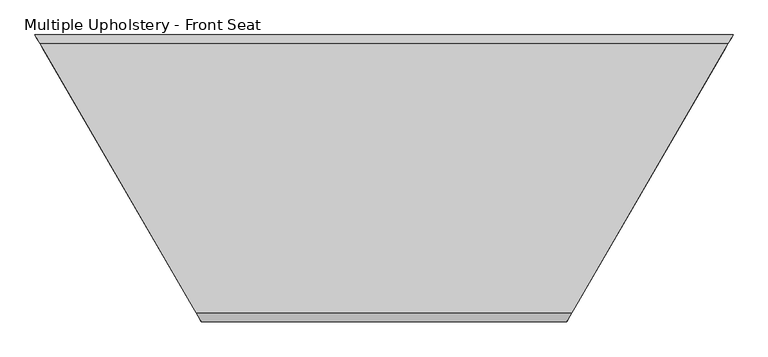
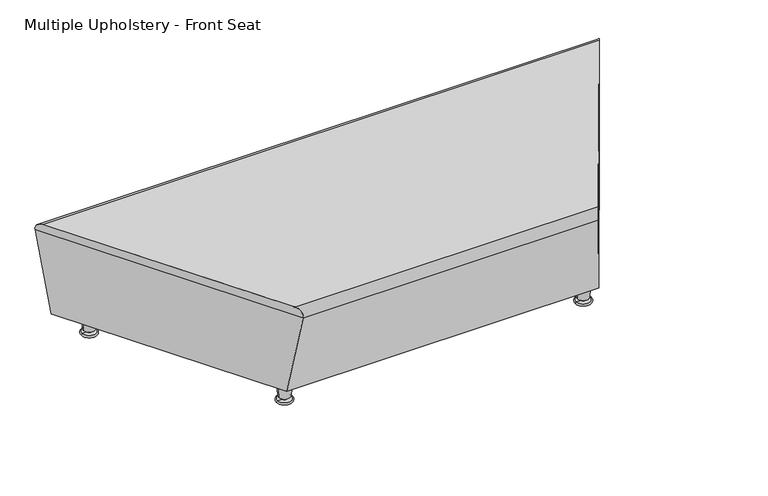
"""IFC4 building model written with IfcOpenShell, lengths in millimetres: furniture geometry, Steelcase - Media Scape - Lounge - Backless : Multiple Upholstery - Front Seat."""

from ifc_helpers import new_model, si_unit, point, frame, origin, place, context, project, spatial, polyline, circle_curve, ellipse_curve, trimmed, source, transform, mapped, element, save
from ifc_brep_helpers import plane_surface, cylinder_surface, revolved_surface, advanced_brep


def multiple_upholstery_front_seat_c7e5a67b(model_context):
    return source(origin(), model_context, "Body", "AdvancedBrep", [
        advanced_brep(
        [(-24.8095014, 40.4380475, 405.1098036), (-16.4902108, 26.1079457, 405.1098036), (1074.4179162, 26.1079457, 405.1098036), (1082.7372067, 40.4380475, 405.1098036), (1519.8054305, 793.2945697, 405.1098036), (1528.124721, 807.6246715, 405.1098036), (-470.1970157, 807.6246715, 405.1098036), (-461.8777252, 793.2945697, 405.1098036), (1543.1209112, 833.4558324, 374.5705234), (1059.421726, 0.2767848, 374.5705234), (-1.4940206, 0.2767848, 374.5705234), (-485.1932059, 833.4558324, 374.5705234)],
        [
            (0, 1),
            (1, 2),
            (2, 3),
            (3, 4),
            (4, 5),
            (5, 6),
            (6, 7),
            (7, 0),
            (8, 9),
            (9, 10),
            (10, 11),
            (11, 8),
            (6, 11, ellipse_curve(frame((-470.1970157, 807.6246715, 378.9157267), z_axis=(-0.8648259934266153, -0.502071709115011, 0.0), x_axis=(-0.5020717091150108, 0.8648259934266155, 0.0)), 30.2882627, 26.1940769)),
            (10, 1, ellipse_curve(frame((-16.4902108, 26.1079457, 378.9157267), z_axis=(-0.8648259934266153, -0.502071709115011, 0.0), x_axis=(-0.5020717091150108, 0.8648259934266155, 0.0)), 30.2882627, 26.1940769)),
            (2, 9, ellipse_curve(frame((1074.4179162, 26.1079457, 378.9157267), z_axis=(0.8648259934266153, -0.5020717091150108, 0.0), x_axis=(-0.5020717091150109, -0.8648259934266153, 0.0)), 30.2882627, 26.1940769)),
            (8, 5, ellipse_curve(frame((1528.124721, 807.6246715, 378.9157267), z_axis=(0.8648259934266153, -0.5020717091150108, 0.0), x_axis=(-0.5020717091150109, -0.8648259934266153, 0.0)), 30.2882627, 26.1940769)),
        ],
        [
            plane_surface(frame((-475.1687245, 834.1880475, 405.1098036), z_axis=(0.0, 0.0, 1.0), x_axis=(-1.0, 0.0, 0.0))),
            plane_surface(frame((-475.1687245, 834.1880475, 374.5705234), z_axis=(0.0, 0.0, -1.0), x_axis=(1.0, 0.0, 0.0))),
            plane_surface(frame((-485.6182908, 834.1880475, 405.1098036), z_axis=(-0.8648259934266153, -0.502071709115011, 0.0), x_axis=(0.0, 0.0, -1.0))),
            plane_surface(frame((1059.1135807, -0.254, 405.1098036), z_axis=(0.8648259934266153, -0.5020717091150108, 0.0), x_axis=(0.0, 0.0, -1.0))),
            cylinder_surface(frame((-516.2938309, 26.1079457, 378.9157267), z_axis=(-1.0, 0.0, 0.0), x_axis=(0.0, 1.0, 0.0)), 26.1940769),
            cylinder_surface(frame((0.0, 807.6246715, 378.9157267), z_axis=(-1.0, 0.0, 0.0), x_axis=(0.0, 1.0, 0.0)), 26.1940769),
        ],
        [
            (0, [[1, 2, 3, 4, 5, 6, 7, 8]]),
            (1, [[9, 10, 11, 12]]),
            (2, [[-1, -8, -7, 13, -11, 14]]),
            (3, [[-3, 15, -9, 16, -5, -4]]),
            (4, [[-2, -14, -10, -15]]),
            (5, [[-6, -16, -12, -13]]),
        ],
    ),
        advanced_brep(
        [(-25.1032021, 40.4380475, 404.8558036), (-16.7839115, 26.1079457, 404.8558036), (1074.7116169, 26.1079457, 404.8558036), (1083.0309074, 40.4380475, 404.8558036), (1521.8658084, 796.3376974, 404.8558036), (1528.4184217, 807.6246715, 404.8558036), (-470.4907164, 807.6246715, 404.8558036), (-463.938103, 796.3376974, 404.8558036), (1513.6795651, 782.2367715, 74.638481), (1089.4504735, 51.4958456, 74.638481), (-31.5227682, 51.4958456, 74.638481), (-455.7518598, 782.2367715, 74.638481), (-485.3373553, 833.1982281, 374.5705234), (-1.9372726, 0.5343891, 374.5705234), (1059.8649779, 0.5343891, 374.5705234), (1543.2650607, 833.1982281, 374.5705234)],
        [
            (0, 1),
            (1, 2),
            (2, 3),
            (3, 4),
            (4, 5),
            (5, 6),
            (6, 7),
            (7, 0),
            (8, 9),
            (9, 10),
            (10, 11),
            (11, 8),
            (6, 12, ellipse_curve(frame((-470.4907164, 807.6246715, 378.9157267), z_axis=(-0.8648259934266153, -0.5020717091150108, 0.0), x_axis=(-0.5020717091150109, 0.8648259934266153, 0.0)), 29.994562, 25.9400769)),
            (12, 11),
            (10, 13),
            (13, 1, ellipse_curve(frame((-16.7839115, 26.1079457, 378.9157267), z_axis=(-0.8648259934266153, -0.5020717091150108, 0.0), x_axis=(-0.5020717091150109, 0.8648259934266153, 0.0)), 29.994562, 25.9400769)),
            (2, 14, ellipse_curve(frame((1074.7116169, 26.1079457, 378.9157267), z_axis=(0.8648259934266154, -0.5020717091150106, 0.0), x_axis=(-0.5020717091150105, -0.8648259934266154, 0.0)), 29.994562, 25.9400769)),
            (14, 9),
            (8, 15),
            (15, 5, ellipse_curve(frame((1528.4184217, 807.6246715, 378.9157267), z_axis=(0.8648259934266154, -0.5020717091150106, 0.0), x_axis=(-0.5020717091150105, -0.8648259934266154, 0.0)), 29.994562, 25.9400769)),
            (13, 14),
            (12, 15),
        ],
        [
            plane_surface(frame((-475.1687245, 833.9340475, 404.8558036), z_axis=(0.0, 0.0, 1.0), x_axis=(-1.0, 0.0, 0.0))),
            plane_surface(frame((-475.1687245, 833.9340475, 74.638481), z_axis=(0.0, 0.0, -1.0), x_axis=(1.0, 0.0, 0.0))),
            plane_surface(frame((-485.7645327, 833.9340475, 404.8558036), z_axis=(-0.8648259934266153, -0.5020717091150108, 0.0), x_axis=(0.0, 0.0, -1.0))),
            plane_surface(frame((1059.5547402, 0.0, 404.8558036), z_axis=(0.8648259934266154, -0.5020717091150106, 0.0), x_axis=(0.0, 0.0, -1.0))),
            cylinder_surface(frame((-516.2938309, 26.1079457, 378.9157267), z_axis=(-1.0, 0.0, 0.0), x_axis=(0.0, 1.0, 0.0)), 25.9400769),
            plane_surface(frame((1560.5939326, 51.4958456, 74.638481), z_axis=(0.0, -0.9858705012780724, -0.16750926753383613), x_axis=(-1.0, 0.0, 0.0))),
            plane_surface(frame((1560.5939326, 833.1982281, 374.5705234), z_axis=(0.0, 0.9858705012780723, -0.1675092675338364), x_axis=(-1.0, 0.0, 0.0))),
            cylinder_surface(frame((0.0, 807.6246715, 378.9157267), z_axis=(-1.0, 0.0, 0.0), x_axis=(0.0, 1.0, 0.0)), 25.9400769),
        ],
        [
            (0, [[1, 2, 3, 4, 5, 6, 7, 8]]),
            (1, [[9, 10, 11, 12]]),
            (2, [[-1, -8, -7, 13, 14, -11, 15, 16]]),
            (3, [[-3, 17, 18, -9, 19, 20, -5, -4]]),
            (4, [[21, -17, -2, -16]]),
            (5, [[-21, -15, -10, -18]]),
            (6, [[22, -19, -12, -14]]),
            (7, [[-22, -13, -6, -20]]),
        ],
    ),
        advanced_brep(
        [(1066.0808023, 106.7707016, 74.1561731), (1089.8677225, 106.7707016, 74.1561731), (1042.2938821, 106.7707016, 74.1561731), (1040.02716, 106.7707016, 0.0), (1092.1344446, 106.7707016, 0.0), (1066.0808023, 106.7707016, 0.0), (1040.02716, 106.7707016, 6.3788302), (1092.1344446, 106.7707016, 6.3788302), (1056.5558023, 106.7707016, 6.3788302), (1075.6058023, 106.7707016, 6.3788302), (1056.5558023, 106.7707016, 17.057519), (1075.6058023, 106.7707016, 17.057519), (1045.125686, 106.7707016, 17.057519), (1087.0359186, 106.7707016, 17.057519)],
        [
            (0, 1),
            (1, 2, circle_curve(frame((1066.0808023, 106.7707016, 74.1561731), z_axis=(0.0, 0.0, 1.0), x_axis=(1.0, 0.0, 0.0)), 23.7869202)),
            (2, 0),
            (2, 1, circle_curve(frame((1066.0808023, 106.7707016, 74.1561731), z_axis=(0.0, 0.0, 1.0), x_axis=(1.0, 0.0, 0.0)), 23.7869202)),
            (3, 4, circle_curve(frame((1066.0808023, 106.7707016, 0.0), z_axis=(0.0, 0.0, -1.0), x_axis=(1.0, 0.0, 0.0)), 26.0536423)),
            (4, 5),
            (5, 3),
            (4, 3, circle_curve(frame((1066.0808023, 106.7707016, 0.0), z_axis=(0.0, 0.0, -1.0), x_axis=(1.0, 0.0, 0.0)), 26.0536423)),
            (6, 7, circle_curve(frame((1066.0808023, 106.7707016, 6.3788302), z_axis=(0.0, 0.0, -1.0), x_axis=(1.0, 0.0, 0.0)), 26.0536423)),
            (7, 4, circle_curve(frame((1092.1344446, 106.7707016, 3.1894151), z_axis=(0.0, 1.0, 0.0), x_axis=(1.0, 0.0, 0.0)), 3.1894151)),
            (3, 6, circle_curve(frame((1040.02716, 106.7707016, 3.1894151), z_axis=(0.0, 1.0, 0.0), x_axis=(-1.0, 0.0, 0.0)), 3.1894151)),
            (7, 6, circle_curve(frame((1066.0808023, 106.7707016, 6.3788302), z_axis=(0.0, 0.0, -1.0), x_axis=(1.0, 0.0, 0.0)), 26.0536423)),
            (8, 9, circle_curve(frame((1066.0808023, 106.7707016, 6.3788302), z_axis=(0.0, 0.0, -1.0), x_axis=(1.0, 0.0, 0.0)), 9.525)),
            (9, 7),
            (6, 8),
            (9, 8, circle_curve(frame((1066.0808023, 106.7707016, 6.3788302), z_axis=(0.0, 0.0, -1.0), x_axis=(1.0, 0.0, 0.0)), 9.525)),
            (10, 11, circle_curve(frame((1066.0808023, 106.7707016, 17.057519), z_axis=(0.0, 0.0, -1.0), x_axis=(1.0, 0.0, 0.0)), 9.525)),
            (11, 9),
            (8, 10),
            (11, 10, circle_curve(frame((1066.0808023, 106.7707016, 17.057519), z_axis=(0.0, 0.0, -1.0), x_axis=(1.0, 0.0, 0.0)), 9.525)),
            (12, 13, circle_curve(frame((1066.0808023, 106.7707016, 17.057519), z_axis=(0.0, 0.0, -1.0), x_axis=(1.0, 0.0, 0.0)), 20.9551163)),
            (13, 11),
            (10, 12),
            (13, 12, circle_curve(frame((1066.0808023, 106.7707016, 17.057519), z_axis=(0.0, 0.0, -1.0), x_axis=(1.0, 0.0, 0.0)), 20.9551163)),
            (1, 13),
            (12, 2),
        ],
        [
            plane_surface(frame((1066.0808023, 106.7707016, 74.1561731), z_axis=(0.0, 0.0, 1.0), x_axis=(1.0, 0.0, 0.0))),
            plane_surface(frame((1066.0808023, 106.7707016, 0.0), z_axis=(0.0, 0.0, -1.0), x_axis=(1.0, 0.0, 0.0))),
            revolved_surface(trimmed(ellipse_curve(frame((1092.1344446, 106.7707016, 3.1894151), z_axis=(0.0, -1.0, 0.0), x_axis=(1.0, 0.0, 0.0)), 3.1894151, 3.1894151), [point((1092.1344446, 106.7707016, 0.0))], [point((1092.1344446, 106.7707016, 6.3788302))], True, "CARTESIAN"), (1066.0808023, 106.7707016, 61.4561731), (0.0, 0.0, 1.0)),
            plane_surface(frame((1066.0808023, 106.7707016, 6.3788302), z_axis=(0.0, 0.0, 1.0), x_axis=(1.0, 0.0, 0.0))),
            cylinder_surface(frame((1066.0808023, 106.7707016, 61.4561731), z_axis=(0.0, 0.0, 1.0), x_axis=(1.0, 0.0, 0.0)), 9.525),
            plane_surface(frame((1066.0808023, 106.7707016, 17.057519), z_axis=(0.0, 0.0, -1.0), x_axis=(1.0, 0.0, 0.0))),
            revolved_surface(polyline([(1087.0359186, 106.7707016, 17.057519), (1089.8677225, 106.7707016, 74.1561731)]), (1066.0808023, 106.7707016, 61.4561731), (0.0, 0.0, 1.0)),
        ],
        [
            (0, [[1, 2, 3]]),
            (0, [[-3, 4, -1]]),
            (1, [[5, 6, 7]]),
            (1, [[8, -7, -6]]),
            (2, [[9, 10, -5, 11]]),
            (2, [[12, -11, -8, -10]]),
            (3, [[13, 14, -9, 15]]),
            (3, [[16, -15, -12, -14]]),
            (4, [[17, 18, -13, 19]]),
            (4, [[20, -19, -16, -18]]),
            (5, [[21, 22, -17, 23]]),
            (5, [[24, -23, -20, -22]]),
            (6, [[-2, 25, -21, 26]]),
            (6, [[-4, -26, -24, -25]]),
        ],
    ),
        advanced_brep(
        [(1410.1417273, 726.9619156, 74.1561731), (1433.9286474, 726.9619156, 74.1561731), (1386.3548071, 726.9619156, 74.1561731), (1384.088085, 726.9619156, 0.0), (1436.1953695, 726.9619156, 0.0), (1410.1417273, 726.9619156, 0.0), (1384.088085, 726.9619156, 6.3788302), (1436.1953695, 726.9619156, 6.3788302), (1400.6167273, 726.9619156, 6.3788302), (1419.6667273, 726.9619156, 6.3788302), (1400.6167273, 726.9619156, 17.057519), (1419.6667273, 726.9619156, 17.057519), (1389.186611, 726.9619156, 17.057519), (1431.0968435, 726.9619156, 17.057519)],
        [
            (0, 1),
            (1, 2, circle_curve(frame((1410.1417273, 726.9619156, 74.1561731), z_axis=(0.0, 0.0, 1.0), x_axis=(1.0, 0.0, 0.0)), 23.7869202)),
            (2, 0),
            (2, 1, circle_curve(frame((1410.1417273, 726.9619156, 74.1561731), z_axis=(0.0, 0.0, 1.0), x_axis=(1.0, 0.0, 0.0)), 23.7869202)),
            (3, 4, circle_curve(frame((1410.1417273, 726.9619156, 0.0), z_axis=(0.0, 0.0, -1.0), x_axis=(1.0, 0.0, 0.0)), 26.0536423)),
            (4, 5),
            (5, 3),
            (4, 3, circle_curve(frame((1410.1417273, 726.9619156, 0.0), z_axis=(0.0, 0.0, -1.0), x_axis=(1.0, 0.0, 0.0)), 26.0536423)),
            (6, 7, circle_curve(frame((1410.1417273, 726.9619156, 6.3788302), z_axis=(0.0, 0.0, -1.0), x_axis=(1.0, 0.0, 0.0)), 26.0536423)),
            (7, 4, circle_curve(frame((1436.1953695, 726.9619156, 3.1894151), z_axis=(0.0, 1.0, 0.0), x_axis=(1.0, 0.0, 0.0)), 3.1894151)),
            (3, 6, circle_curve(frame((1384.088085, 726.9619156, 3.1894151), z_axis=(0.0, 1.0, 0.0), x_axis=(-1.0, 0.0, 0.0)), 3.1894151)),
            (7, 6, circle_curve(frame((1410.1417273, 726.9619156, 6.3788302), z_axis=(0.0, 0.0, -1.0), x_axis=(1.0, 0.0, 0.0)), 26.0536423)),
            (8, 9, circle_curve(frame((1410.1417273, 726.9619156, 6.3788302), z_axis=(0.0, 0.0, -1.0), x_axis=(1.0, 0.0, 0.0)), 9.525)),
            (9, 7),
            (6, 8),
            (9, 8, circle_curve(frame((1410.1417273, 726.9619156, 6.3788302), z_axis=(0.0, 0.0, -1.0), x_axis=(1.0, 0.0, 0.0)), 9.525)),
            (10, 11, circle_curve(frame((1410.1417273, 726.9619156, 17.057519), z_axis=(0.0, 0.0, -1.0), x_axis=(1.0, 0.0, 0.0)), 9.525)),
            (11, 9),
            (8, 10),
            (11, 10, circle_curve(frame((1410.1417273, 726.9619156, 17.057519), z_axis=(0.0, 0.0, -1.0), x_axis=(1.0, 0.0, 0.0)), 9.525)),
            (12, 13, circle_curve(frame((1410.1417273, 726.9619156, 17.057519), z_axis=(0.0, 0.0, -1.0), x_axis=(1.0, 0.0, 0.0)), 20.9551163)),
            (13, 11),
            (10, 12),
            (13, 12, circle_curve(frame((1410.1417273, 726.9619156, 17.057519), z_axis=(0.0, 0.0, -1.0), x_axis=(1.0, 0.0, 0.0)), 20.9551163)),
            (1, 13),
            (12, 2),
        ],
        [
            plane_surface(frame((1410.1417273, 726.9619156, 74.1561731), z_axis=(0.0, 0.0, 1.0), x_axis=(1.0, 0.0, 0.0))),
            plane_surface(frame((1410.1417273, 726.9619156, 0.0), z_axis=(0.0, 0.0, -1.0), x_axis=(1.0, 0.0, 0.0))),
            revolved_surface(trimmed(ellipse_curve(frame((1436.1953695, 726.9619156, 3.1894151), z_axis=(0.0, -1.0, 0.0), x_axis=(1.0, 0.0, 0.0)), 3.1894151, 3.1894151), [point((1436.1953695, 726.9619156, 0.0))], [point((1436.1953695, 726.9619156, 6.3788302))], True, "CARTESIAN"), (1410.1417273, 726.9619156, 61.4561731), (0.0, 0.0, 1.0)),
            plane_surface(frame((1410.1417273, 726.9619156, 6.3788302), z_axis=(0.0, 0.0, 1.0), x_axis=(1.0, 0.0, 0.0))),
            cylinder_surface(frame((1410.1417273, 726.9619156, 61.4561731), z_axis=(0.0, 0.0, 1.0), x_axis=(1.0, 0.0, 0.0)), 9.525),
            plane_surface(frame((1410.1417273, 726.9619156, 17.057519), z_axis=(0.0, 0.0, -1.0), x_axis=(1.0, 0.0, 0.0))),
            revolved_surface(polyline([(1431.0968435, 726.9619156, 17.057519), (1433.9286474, 726.9619156, 74.1561731)]), (1410.1417273, 726.9619156, 61.4561731), (0.0, 0.0, 1.0)),
        ],
        [
            (0, [[1, 2, 3]]),
            (0, [[-3, 4, -1]]),
            (1, [[5, 6, 7]]),
            (1, [[8, -7, -6]]),
            (2, [[9, 10, -5, 11]]),
            (2, [[12, -11, -8, -10]]),
            (3, [[13, 14, -9, 15]]),
            (3, [[16, -15, -12, -14]]),
            (4, [[17, 18, -13, 19]]),
            (4, [[20, -19, -16, -18]]),
            (5, [[21, 22, -17, 23]]),
            (5, [[24, -23, -20, -22]]),
            (6, [[-2, 25, -21, 26]]),
            (6, [[-4, -26, -24, -25]]),
        ],
    ),
        advanced_brep(
        [(-352.2140219, 726.9619156, 74.1561731), (-328.4271018, 726.9619156, 74.1561731), (-376.0009421, 726.9619156, 74.1561731), (-378.2676642, 726.9619156, 0.0), (-326.1603796, 726.9619156, 0.0), (-352.2140219, 726.9619156, 0.0), (-378.2676642, 726.9619156, 6.3788302), (-326.1603796, 726.9619156, 6.3788302), (-361.7390219, 726.9619156, 6.3788302), (-342.6890219, 726.9619156, 6.3788302), (-361.7390219, 726.9619156, 17.057519), (-342.6890219, 726.9619156, 17.057519), (-373.1691382, 726.9619156, 17.057519), (-331.2589057, 726.9619156, 17.057519)],
        [
            (0, 1),
            (1, 2, circle_curve(frame((-352.2140219, 726.9619156, 74.1561731), z_axis=(0.0, 0.0, 1.0), x_axis=(1.0, 0.0, 0.0)), 23.7869202)),
            (2, 0),
            (2, 1, circle_curve(frame((-352.2140219, 726.9619156, 74.1561731), z_axis=(0.0, 0.0, 1.0), x_axis=(1.0, 0.0, 0.0)), 23.7869202)),
            (3, 4, circle_curve(frame((-352.2140219, 726.9619156, 0.0), z_axis=(0.0, 0.0, -1.0), x_axis=(1.0, 0.0, 0.0)), 26.0536423)),
            (4, 5),
            (5, 3),
            (4, 3, circle_curve(frame((-352.2140219, 726.9619156, 0.0), z_axis=(0.0, 0.0, -1.0), x_axis=(1.0, 0.0, 0.0)), 26.0536423)),
            (6, 7, circle_curve(frame((-352.2140219, 726.9619156, 6.3788302), z_axis=(0.0, 0.0, -1.0), x_axis=(1.0, 0.0, 0.0)), 26.0536423)),
            (7, 4, circle_curve(frame((-326.1603796, 726.9619156, 3.1894151), z_axis=(0.0, 1.0, 0.0), x_axis=(1.0, 0.0, 0.0)), 3.1894151)),
            (3, 6, circle_curve(frame((-378.2676642, 726.9619156, 3.1894151), z_axis=(0.0, 1.0, 0.0), x_axis=(-1.0, 0.0, 0.0)), 3.1894151)),
            (7, 6, circle_curve(frame((-352.2140219, 726.9619156, 6.3788302), z_axis=(0.0, 0.0, -1.0), x_axis=(1.0, 0.0, 0.0)), 26.0536423)),
            (8, 9, circle_curve(frame((-352.2140219, 726.9619156, 6.3788302), z_axis=(0.0, 0.0, -1.0), x_axis=(1.0, 0.0, 0.0)), 9.525)),
            (9, 7),
            (6, 8),
            (9, 8, circle_curve(frame((-352.2140219, 726.9619156, 6.3788302), z_axis=(0.0, 0.0, -1.0), x_axis=(1.0, 0.0, 0.0)), 9.525)),
            (10, 11, circle_curve(frame((-352.2140219, 726.9619156, 17.057519), z_axis=(0.0, 0.0, -1.0), x_axis=(1.0, 0.0, 0.0)), 9.525)),
            (11, 9),
            (8, 10),
            (11, 10, circle_curve(frame((-352.2140219, 726.9619156, 17.057519), z_axis=(0.0, 0.0, -1.0), x_axis=(1.0, 0.0, 0.0)), 9.525)),
            (12, 13, circle_curve(frame((-352.2140219, 726.9619156, 17.057519), z_axis=(0.0, 0.0, -1.0), x_axis=(1.0, 0.0, 0.0)), 20.9551163)),
            (13, 11),
            (10, 12),
            (13, 12, circle_curve(frame((-352.2140219, 726.9619156, 17.057519), z_axis=(0.0, 0.0, -1.0), x_axis=(1.0, 0.0, 0.0)), 20.9551163)),
            (1, 13),
            (12, 2),
        ],
        [
            plane_surface(frame((-352.2140219, 726.9619156, 74.1561731), z_axis=(0.0, 0.0, 1.0), x_axis=(1.0, 0.0, 0.0))),
            plane_surface(frame((-352.2140219, 726.9619156, 0.0), z_axis=(0.0, 0.0, -1.0), x_axis=(1.0, 0.0, 0.0))),
            revolved_surface(trimmed(ellipse_curve(frame((-326.1603796, 726.9619156, 3.1894151), z_axis=(0.0, -1.0, 0.0), x_axis=(1.0, 0.0, 0.0)), 3.1894151, 3.1894151), [point((-326.1603796, 726.9619156, 0.0))], [point((-326.1603796, 726.9619156, 6.3788302))], True, "CARTESIAN"), (-352.2140219, 726.9619156, 61.4561731), (0.0, 0.0, 1.0)),
            plane_surface(frame((-352.2140219, 726.9619156, 6.3788302), z_axis=(0.0, 0.0, 1.0), x_axis=(1.0, 0.0, 0.0))),
            cylinder_surface(frame((-352.2140219, 726.9619156, 61.4561731), z_axis=(0.0, 0.0, 1.0), x_axis=(1.0, 0.0, 0.0)), 9.525),
            plane_surface(frame((-352.2140219, 726.9619156, 17.057519), z_axis=(0.0, 0.0, -1.0), x_axis=(1.0, 0.0, 0.0))),
            revolved_surface(polyline([(-331.2589057, 726.9619156, 17.057519), (-328.4271018, 726.9619156, 74.1561731)]), (-352.2140219, 726.9619156, 61.4561731), (0.0, 0.0, 1.0)),
        ],
        [
            (0, [[1, 2, 3]]),
            (0, [[-3, 4, -1]]),
            (1, [[5, 6, 7]]),
            (1, [[8, -7, -6]]),
            (2, [[9, 10, -5, 11]]),
            (2, [[12, -11, -8, -10]]),
            (3, [[13, 14, -9, 15]]),
            (3, [[16, -15, -12, -14]]),
            (4, [[17, 18, -13, 19]]),
            (4, [[20, -19, -16, -18]]),
            (5, [[21, 22, -17, 23]]),
            (5, [[24, -23, -20, -22]]),
            (6, [[-2, 25, -21, 26]]),
            (6, [[-4, -26, -24, -25]]),
        ],
    ),
        advanced_brep(
        [(-8.153097, 106.7707016, 74.1561731), (15.6338232, 106.7707016, 74.1561731), (-31.9400171, 106.7707016, 74.1561731), (-34.2067392, 106.7707016, 0.0), (17.9005453, 106.7707016, 0.0), (-8.153097, 106.7707016, 0.0), (-34.2067392, 106.7707016, 6.3788302), (17.9005453, 106.7707016, 6.3788302), (-17.678097, 106.7707016, 6.3788302), (1.371903, 106.7707016, 6.3788302), (-17.678097, 106.7707016, 17.057519), (1.371903, 106.7707016, 17.057519), (-29.1082132, 106.7707016, 17.057519), (12.8020193, 106.7707016, 17.057519)],
        [
            (0, 1),
            (1, 2, circle_curve(frame((-8.153097, 106.7707016, 74.1561731), z_axis=(0.0, 0.0, 1.0), x_axis=(1.0, 0.0, 0.0)), 23.7869202)),
            (2, 0),
            (2, 1, circle_curve(frame((-8.153097, 106.7707016, 74.1561731), z_axis=(0.0, 0.0, 1.0), x_axis=(1.0, 0.0, 0.0)), 23.7869202)),
            (3, 4, circle_curve(frame((-8.153097, 106.7707016, 0.0), z_axis=(0.0, 0.0, -1.0), x_axis=(1.0, 0.0, 0.0)), 26.0536423)),
            (4, 5),
            (5, 3),
            (4, 3, circle_curve(frame((-8.153097, 106.7707016, 0.0), z_axis=(0.0, 0.0, -1.0), x_axis=(1.0, 0.0, 0.0)), 26.0536423)),
            (6, 7, circle_curve(frame((-8.153097, 106.7707016, 6.3788302), z_axis=(0.0, 0.0, -1.0), x_axis=(1.0, 0.0, 0.0)), 26.0536423)),
            (7, 4, circle_curve(frame((17.9005453, 106.7707016, 3.1894151), z_axis=(0.0, 1.0, 0.0), x_axis=(1.0, 0.0, 0.0)), 3.1894151)),
            (3, 6, circle_curve(frame((-34.2067392, 106.7707016, 3.1894151), z_axis=(0.0, 1.0, 0.0), x_axis=(-1.0, 0.0, 0.0)), 3.1894151)),
            (7, 6, circle_curve(frame((-8.153097, 106.7707016, 6.3788302), z_axis=(0.0, 0.0, -1.0), x_axis=(1.0, 0.0, 0.0)), 26.0536423)),
            (8, 9, circle_curve(frame((-8.153097, 106.7707016, 6.3788302), z_axis=(0.0, 0.0, -1.0), x_axis=(1.0, 0.0, 0.0)), 9.525)),
            (9, 7),
            (6, 8),
            (9, 8, circle_curve(frame((-8.153097, 106.7707016, 6.3788302), z_axis=(0.0, 0.0, -1.0), x_axis=(1.0, 0.0, 0.0)), 9.525)),
            (10, 11, circle_curve(frame((-8.153097, 106.7707016, 17.057519), z_axis=(0.0, 0.0, -1.0), x_axis=(1.0, 0.0, 0.0)), 9.525)),
            (11, 9),
            (8, 10),
            (11, 10, circle_curve(frame((-8.153097, 106.7707016, 17.057519), z_axis=(0.0, 0.0, -1.0), x_axis=(1.0, 0.0, 0.0)), 9.525)),
            (12, 13, circle_curve(frame((-8.153097, 106.7707016, 17.057519), z_axis=(0.0, 0.0, -1.0), x_axis=(1.0, 0.0, 0.0)), 20.9551163)),
            (13, 11),
            (10, 12),
            (13, 12, circle_curve(frame((-8.153097, 106.7707016, 17.057519), z_axis=(0.0, 0.0, -1.0), x_axis=(1.0, 0.0, 0.0)), 20.9551163)),
            (1, 13),
            (12, 2),
        ],
        [
            plane_surface(frame((-8.153097, 106.7707016, 74.1561731), z_axis=(0.0, 0.0, 1.0), x_axis=(1.0, 0.0, 0.0))),
            plane_surface(frame((-8.153097, 106.7707016, 0.0), z_axis=(0.0, 0.0, -1.0), x_axis=(1.0, 0.0, 0.0))),
            revolved_surface(trimmed(ellipse_curve(frame((17.9005453, 106.7707016, 3.1894151), z_axis=(0.0, -1.0, 0.0), x_axis=(1.0, 0.0, 0.0)), 3.1894151, 3.1894151), [point((17.9005453, 106.7707016, 0.0))], [point((17.9005453, 106.7707016, 6.3788302))], True, "CARTESIAN"), (-8.153097, 106.7707016, 61.4561731), (0.0, 0.0, 1.0)),
            plane_surface(frame((-8.153097, 106.7707016, 6.3788302), z_axis=(0.0, 0.0, 1.0), x_axis=(1.0, 0.0, 0.0))),
            cylinder_surface(frame((-8.153097, 106.7707016, 61.4561731), z_axis=(0.0, 0.0, 1.0), x_axis=(1.0, 0.0, 0.0)), 9.525),
            plane_surface(frame((-8.153097, 106.7707016, 17.057519), z_axis=(0.0, 0.0, -1.0), x_axis=(1.0, 0.0, 0.0))),
            revolved_surface(polyline([(12.8020193, 106.7707016, 17.057519), (15.6338232, 106.7707016, 74.1561731)]), (-8.153097, 106.7707016, 61.4561731), (0.0, 0.0, 1.0)),
        ],
        [
            (0, [[1, 2, 3]]),
            (0, [[-3, 4, -1]]),
            (1, [[5, 6, 7]]),
            (1, [[8, -7, -6]]),
            (2, [[9, 10, -5, 11]]),
            (2, [[12, -11, -8, -10]]),
            (3, [[13, 14, -9, 15]]),
            (3, [[16, -15, -12, -14]]),
            (4, [[17, 18, -13, 19]]),
            (4, [[20, -19, -16, -18]]),
            (5, [[21, 22, -17, 23]]),
            (5, [[24, -23, -20, -22]]),
            (6, [[-2, 25, -21, 26]]),
            (6, [[-4, -26, -24, -25]]),
        ],
    ),
    ])


if __name__ == "__main__":
    model = new_model("IFC4")
    model_context = context("Model", 3, world=origin())
    ifc_project = project(units=[si_unit("LENGTHUNIT", "METRE", prefix="MILLI")], contexts=[model_context])
    site = spatial("IfcSite", under=ifc_project)
    building = spatial("IfcBuilding", under=site)
    placement = place(None, origin())
    multiple_upholstery_front_seat_shape = multiple_upholstery_front_seat_c7e5a67b(model_context)
    element("IfcFurniture", 1, ObjectType="Steelcase - Media Scape - Lounge - Backless : Multiple Upholstery - Front Seat", at=placement, inside=building, context=model_context, shape_type="MappedRepresentation", body=[
        mapped(multiple_upholstery_front_seat_shape, transform((0.0, 0.0, 0.0), x_axis=(1.0, 0.0, 0.0), y_axis=(0.0, 1.0, 0.0), z_axis=(0.0, 0.0, 1.0))),
    ])
    save(model, "model.ifc")
